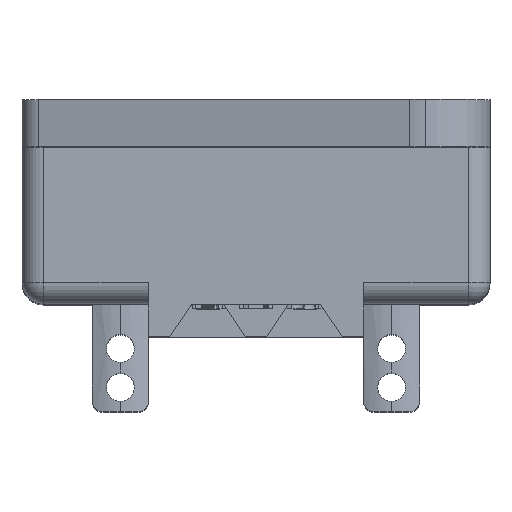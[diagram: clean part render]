
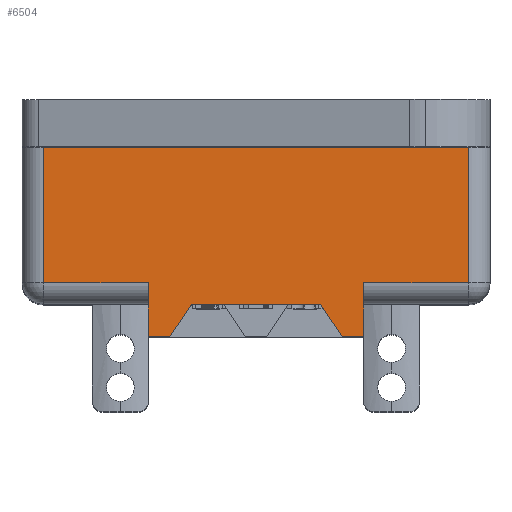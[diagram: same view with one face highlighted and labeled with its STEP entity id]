
A CAD part, top view. The second image highlights one B-rep face of the part: STEP entity #6504.
In plain terms, the highlighted planar face has unit normal (0, 0, 1).
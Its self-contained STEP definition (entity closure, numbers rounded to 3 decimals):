
#1066 = FACE_OUTER_BOUND ( 'NONE', #4029, .T. ) ;
#1106 = AXIS2_PLACEMENT_3D ( 'NONE', #16116, #16117, #16118 ) ;
#1310 = VECTOR ( 'NONE', #15152, 1000. ) ;
#1334 = VECTOR ( 'NONE', #15212, 1000. ) ;
#1355 = VECTOR ( 'NONE', #15245, 1000. ) ;
#1489 = VERTEX_POINT ( 'NONE', #12187 ) ;
#2162 = ORIENTED_EDGE ( 'NONE', *, *, #6357, .T. ) ;
#2163 = ORIENTED_EDGE ( 'NONE', *, *, #6212, .F. ) ;
#2164 = ORIENTED_EDGE ( 'NONE', *, *, #6356, .F. ) ;
#2165 = ORIENTED_EDGE ( 'NONE', *, *, #6358, .F. ) ;
#2166 = ORIENTED_EDGE ( 'NONE', *, *, #5558, .F. ) ;
#2167 = ORIENTED_EDGE ( 'NONE', *, *, #6359, .F. ) ;
#2168 = ORIENTED_EDGE ( 'NONE', *, *, #6360, .T. ) ;
#2169 = ORIENTED_EDGE ( 'NONE', *, *, #6223, .F. ) ;
#2170 = ORIENTED_EDGE ( 'NONE', *, *, #6192, .F. ) ;
#2171 = ORIENTED_EDGE ( 'NONE', *, *, #6353, .T. ) ;
#2172 = ORIENTED_EDGE ( 'NONE', *, *, #6361, .T. ) ;
#2173 = ORIENTED_EDGE ( 'NONE', *, *, #6362, .T. ) ;
#2542 = VECTOR ( 'NONE', #15662, 1000. ) ;
#2604 = VECTOR ( 'NONE', #15647, 1000. ) ;
#2623 = VECTOR ( 'NONE', #15644, 1000. ) ;
#2628 = VECTOR ( 'NONE', #15659, 1000. ) ;
#2629 = VECTOR ( 'NONE', #15650, 1000. ) ;
#2630 = VECTOR ( 'NONE', #15653, 1000. ) ;
#2633 = VECTOR ( 'NONE', #15656, 1000. ) ;
#2635 = VECTOR ( 'NONE', #15635, 1000. ) ;
#2990 = VERTEX_POINT ( 'NONE', #12356 ) ;
#2992 = VERTEX_POINT ( 'NONE', #12358 ) ;
#2994 = VERTEX_POINT ( 'NONE', #12360 ) ;
#2995 = VERTEX_POINT ( 'NONE', #12361 ) ;
#2998 = VERTEX_POINT ( 'NONE', #12364 ) ;
#3042 = VERTEX_POINT ( 'NONE', #12408 ) ;
#3043 = VERTEX_POINT ( 'NONE', #12409 ) ;
#3044 = VERTEX_POINT ( 'NONE', #12410 ) ;
#3060 = VERTEX_POINT ( 'NONE', #12426 ) ;
#3061 = VERTEX_POINT ( 'NONE', #12427 ) ;
#4029 = EDGE_LOOP ( 'NONE', ( #2162, #2164, #2163, #2165, #2166, #2167, #2169, #2170, #2168, #2172, #2171, #2173 ) ) ;
#5558 = EDGE_CURVE ( 'NONE', #1489, #22303, #13029, .T. ) ;
#6192 = EDGE_CURVE ( 'NONE', #3061, #3060, #15150, .T. ) ;
#6212 = EDGE_CURVE ( 'NONE', #3044, #3042, #15210, .T. ) ;
#6223 = EDGE_CURVE ( 'NONE', #3060, #3043, #15243, .T. ) ;
#6353 = EDGE_CURVE ( 'NONE', #2995, #2998, #15633, .T. ) ;
#6356 = EDGE_CURVE ( 'NONE', #3042, #2992, #15642, .T. ) ;
#6357 = EDGE_CURVE ( 'NONE', #2994, #2992, #15645, .T. ) ;
#6358 = EDGE_CURVE ( 'NONE', #22303, #3044, #15648, .T. ) ;
#6359 = EDGE_CURVE ( 'NONE', #3043, #1489, #15651, .T. ) ;
#6360 = EDGE_CURVE ( 'NONE', #3061, #2990, #15654, .T. ) ;
#6361 = EDGE_CURVE ( 'NONE', #2990, #2995, #15657, .T. ) ;
#6362 = EDGE_CURVE ( 'NONE', #2998, #2994, #15660, .T. ) ;
#6504 = ADVANCED_FACE ( 'NONE', ( #1066 ), #16115, .F. ) ;
#12187 = CARTESIAN_POINT ( 'NONE',  ( 3., -7.3, 12.6 ) ) ;
#12356 = CARTESIAN_POINT ( 'NONE',  ( 9.875, -6.3, 12.6 ) ) ;
#12358 = CARTESIAN_POINT ( 'NONE',  ( -5., -6.3, 12.6 ) ) ;
#12360 = CARTESIAN_POINT ( 'NONE',  ( -9.875, -6.3, 12.6 ) ) ;
#12361 = CARTESIAN_POINT ( 'NONE',  ( 9.875, 0., 12.6 ) ) ;
#12364 = CARTESIAN_POINT ( 'NONE',  ( -9.875, 0., 12.6 ) ) ;
#12408 = CARTESIAN_POINT ( 'NONE',  ( -5., -8.8, 12.6 ) ) ;
#12409 = CARTESIAN_POINT ( 'NONE',  ( 4., -8.8, 12.6 ) ) ;
#12410 = CARTESIAN_POINT ( 'NONE',  ( -4., -8.8, 12.6 ) ) ;
#12426 = CARTESIAN_POINT ( 'NONE',  ( 5., -8.8, 12.6 ) ) ;
#12427 = CARTESIAN_POINT ( 'NONE',  ( 5., -6.3, 12.6 ) ) ;
#13029 = LINE ( 'NONE', #13030, #22984 ) ;
#13030 = CARTESIAN_POINT ( 'NONE',  ( 1.5, -7.3, 12.6 ) ) ;
#13031 = DIRECTION ( 'NONE',  ( -1., 0., 0. ) ) ;
#15150 = LINE ( 'NONE', #15151, #1310 ) ;
#15151 = CARTESIAN_POINT ( 'NONE',  ( 5., -8.8, 12.6 ) ) ;
#15152 = DIRECTION ( 'NONE',  ( 0., -1., 0. ) ) ;
#15210 = LINE ( 'NONE', #15211, #1334 ) ;
#15211 = CARTESIAN_POINT ( 'NONE',  ( -10.875, -8.8, 12.6 ) ) ;
#15212 = DIRECTION ( 'NONE',  ( -1., 0., 0. ) ) ;
#15243 = LINE ( 'NONE', #15244, #1355 ) ;
#15244 = CARTESIAN_POINT ( 'NONE',  ( -10.875, -8.8, 12.6 ) ) ;
#15245 = DIRECTION ( 'NONE',  ( -1., 0., 0. ) ) ;
#15633 = LINE ( 'NONE', #15634, #2635 ) ;
#15634 = CARTESIAN_POINT ( 'NONE',  ( -10.875, 0., 12.6 ) ) ;
#15635 = DIRECTION ( 'NONE',  ( -1., 0., 0. ) ) ;
#15642 = LINE ( 'NONE', #15643, #2623 ) ;
#15643 = CARTESIAN_POINT ( 'NONE',  ( -5., -8.8, 12.6 ) ) ;
#15644 = DIRECTION ( 'NONE',  ( 0., 1., 0. ) ) ;
#15645 = LINE ( 'NONE', #15646, #2604 ) ;
#15646 = CARTESIAN_POINT ( 'NONE',  ( -10.875, -6.3, 12.6 ) ) ;
#15647 = DIRECTION ( 'NONE',  ( 1., 0., 0. ) ) ;
#15648 = LINE ( 'NONE', #15649, #2629 ) ;
#15649 = CARTESIAN_POINT ( 'NONE',  ( -3., -7.3, 12.6 ) ) ;
#15650 = DIRECTION ( 'NONE',  ( -0.555, -0.832, 0. ) ) ;
#15651 = LINE ( 'NONE', #15652, #2630 ) ;
#15652 = CARTESIAN_POINT ( 'NONE',  ( 4., -8.8, 12.6 ) ) ;
#15653 = DIRECTION ( 'NONE',  ( -0.555, 0.832, 0. ) ) ;
#15654 = LINE ( 'NONE', #15655, #2633 ) ;
#15655 = CARTESIAN_POINT ( 'NONE',  ( -10.875, -6.3, 12.6 ) ) ;
#15656 = DIRECTION ( 'NONE',  ( 1., 0., 0. ) ) ;
#15657 = LINE ( 'NONE', #15658, #2628 ) ;
#15658 = CARTESIAN_POINT ( 'NONE',  ( 9.875, -8.8, 12.6 ) ) ;
#15659 = DIRECTION ( 'NONE',  ( 0., 1., 0. ) ) ;
#15660 = LINE ( 'NONE', #15661, #2542 ) ;
#15661 = CARTESIAN_POINT ( 'NONE',  ( -9.875, -8.8, 12.6 ) ) ;
#15662 = DIRECTION ( 'NONE',  ( 0., -1., 0. ) ) ;
#16115 = PLANE ( 'NONE',  #1106 ) ;
#16116 = CARTESIAN_POINT ( 'NONE',  ( -10.875, -8.8, 12.6 ) ) ;
#16117 = DIRECTION ( 'NONE',  ( 0., 0., -1. ) ) ;
#16118 = DIRECTION ( 'NONE',  ( -1., 0., 0. ) ) ;
#18771 = CARTESIAN_POINT ( 'NONE',  ( -3., -7.3, 12.6 ) ) ;
#22303 = VERTEX_POINT ( 'NONE', #18771 ) ;
#22984 = VECTOR ( 'NONE', #13031, 1000. ) ;
